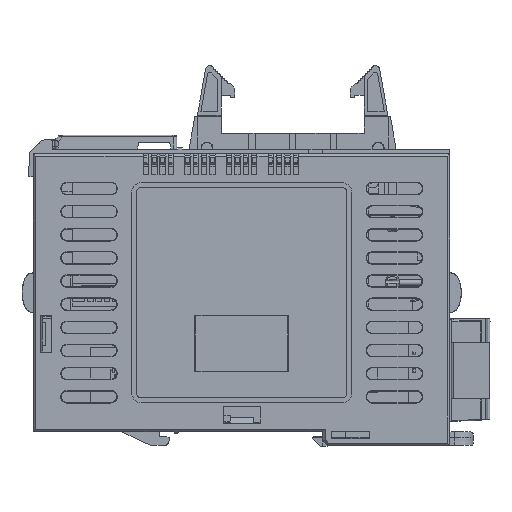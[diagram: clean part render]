
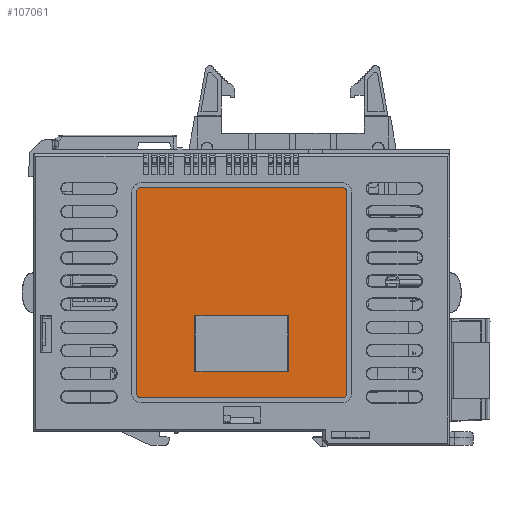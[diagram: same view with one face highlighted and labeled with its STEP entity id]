
A CAD part, left-side view. The second image highlights one B-rep face of the part: STEP entity #107061.
In plain terms, the highlighted planar face has unit normal (-1, 0, 0).
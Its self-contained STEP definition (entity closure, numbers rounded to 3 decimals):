
#2877 = CARTESIAN_POINT ( 'NONE',  ( -14.447, 21.427, 10.45 ) ) ;
#10142 = AXIS2_PLACEMENT_3D ( 'NONE', #220502, #161157, #47295 ) ;
#12212 = LINE ( 'NONE', #102442, #42862 ) ;
#14720 = CARTESIAN_POINT ( 'NONE',  ( -14.447, -11.423, 16.1 ) ) ;
#16012 = EDGE_LOOP ( 'NONE', ( #69856, #181672, #110031, #75153 ) ) ;
#17765 = AXIS2_PLACEMENT_3D ( 'NONE', #290230, #87526, #40233 ) ;
#17963 = ORIENTED_EDGE ( 'NONE', *, *, #114515, .T. ) ;
#20245 = VERTEX_POINT ( 'NONE', #54568 ) ;
#26113 = CARTESIAN_POINT ( 'NONE',  ( -14.447, -11.423, 16.1 ) ) ;
#26792 = DIRECTION ( 'NONE',  ( 0., 0., -1. ) ) ;
#26837 = VERTEX_POINT ( 'NONE', #164403 ) ;
#27988 = DIRECTION ( 'NONE',  ( 0., -1., 0. ) ) ;
#28311 = CARTESIAN_POINT ( 'NONE',  ( -14.447, -23.073, 10.45 ) ) ;
#31171 = VERTEX_POINT ( 'NONE', #88482 ) ;
#35231 = AXIS2_PLACEMENT_3D ( 'NONE', #108298, #243007, #111241 ) ;
#40233 = DIRECTION ( 'NONE',  ( 0., 1., 0. ) ) ;
#42402 = DIRECTION ( 'NONE',  ( 0., 0., 1. ) ) ;
#42862 = VECTOR ( 'NONE', #192688, 1000. ) ;
#44814 = CARTESIAN_POINT ( 'NONE',  ( -14.447, -11.423, 28.3 ) ) ;
#47295 = DIRECTION ( 'NONE',  ( 0., 0., -1. ) ) ;
#47440 = VERTEX_POINT ( 'NONE', #189697 ) ;
#50430 = CARTESIAN_POINT ( 'NONE',  ( -14.447, 21.427, 10.45 ) ) ;
#54568 = CARTESIAN_POINT ( 'NONE',  ( -14.447, 8.777, 16.1 ) ) ;
#58655 = EDGE_CURVE ( 'NONE', #31171, #47440, #143762, .T. ) ;
#59034 = ORIENTED_EDGE ( 'NONE', *, *, #276621, .T. ) ;
#59855 = VERTEX_POINT ( 'NONE', #224137 ) ;
#68436 = VECTOR ( 'NONE', #27988, 1000. ) ;
#69856 = ORIENTED_EDGE ( 'NONE', *, *, #164331, .F. ) ;
#73030 = CIRCLE ( 'NONE', #214779, 1. ) ;
#73611 = EDGE_CURVE ( 'NONE', #259397, #123393, #12212, .T. ) ;
#75153 = ORIENTED_EDGE ( 'NONE', *, *, #252585, .F. ) ;
#75732 = EDGE_LOOP ( 'NONE', ( #284649, #17963, #168042, #192139, #157926, #59034, #184029, #174642 ) ) ;
#79972 = VERTEX_POINT ( 'NONE', #118158 ) ;
#87526 = DIRECTION ( 'NONE',  ( 1., 0., 0. ) ) ;
#88482 = CARTESIAN_POINT ( 'NONE',  ( -14.447, 21.427, 11.45 ) ) ;
#89003 = VECTOR ( 'NONE', #26792, 1000. ) ;
#94795 = EDGE_CURVE ( 'NONE', #79972, #59855, #106054, .T. ) ;
#97983 = VECTOR ( 'NONE', #42402, 1000. ) ;
#102442 = CARTESIAN_POINT ( 'NONE',  ( -14.447, 21.427, 55.95 ) ) ;
#106054 = LINE ( 'NONE', #245115, #97983 ) ;
#107061 = ADVANCED_FACE ( 'NONE', ( #199950, #242945 ), #265114, .F. ) ;
#107913 = VECTOR ( 'NONE', #167194, 1000. ) ;
#108298 = CARTESIAN_POINT ( 'NONE',  ( -14.447, 20.427, 11.45 ) ) ;
#109567 = CARTESIAN_POINT ( 'NONE',  ( -14.447, 20.427, 55.95 ) ) ;
#110031 = ORIENTED_EDGE ( 'NONE', *, *, #246462, .F. ) ;
#111241 = DIRECTION ( 'NONE',  ( 0., 0., -1. ) ) ;
#111487 = DIRECTION ( 'NONE',  ( 0., 0., -1. ) ) ;
#112626 = LINE ( 'NONE', #50430, #89003 ) ;
#114515 = EDGE_CURVE ( 'NONE', #197595, #79972, #73030, .T. ) ;
#118158 = CARTESIAN_POINT ( 'NONE',  ( -14.447, -24.073, 11.45 ) ) ;
#120987 = VECTOR ( 'NONE', #136486, 1000. ) ;
#121327 = EDGE_CURVE ( 'NONE', #172085, #31171, #112626, .T. ) ;
#123393 = VERTEX_POINT ( 'NONE', #109567 ) ;
#131596 = EDGE_CURVE ( 'NONE', #26837, #291176, #180864, .T. ) ;
#136486 = DIRECTION ( 'NONE',  ( 0., 1., 0. ) ) ;
#137677 = CIRCLE ( 'NONE', #10142, 1. ) ;
#138972 = DIRECTION ( 'NONE',  ( -1., 0., 0. ) ) ;
#141209 = VECTOR ( 'NONE', #147929, 1000. ) ;
#143659 = CARTESIAN_POINT ( 'NONE',  ( -14.447, -23.073, 11.45 ) ) ;
#143762 = CIRCLE ( 'NONE', #35231, 1. ) ;
#144739 = CARTESIAN_POINT ( 'NONE',  ( -14.447, 21.427, 54.95 ) ) ;
#147929 = DIRECTION ( 'NONE',  ( 0., 0., 1. ) ) ;
#157926 = ORIENTED_EDGE ( 'NONE', *, *, #73611, .T. ) ;
#161157 = DIRECTION ( 'NONE',  ( -1., 0., 0. ) ) ;
#164264 = LINE ( 'NONE', #254563, #107913 ) ;
#164331 = EDGE_CURVE ( 'NONE', #291176, #20245, #271266, .T. ) ;
#164403 = CARTESIAN_POINT ( 'NONE',  ( -14.447, -11.423, 28.3 ) ) ;
#167194 = DIRECTION ( 'NONE',  ( 0., -1., 0. ) ) ;
#168042 = ORIENTED_EDGE ( 'NONE', *, *, #94795, .T. ) ;
#168148 = AXIS2_PLACEMENT_3D ( 'NONE', #247065, #138972, #201154 ) ;
#172085 = VERTEX_POINT ( 'NONE', #144739 ) ;
#174443 = LINE ( 'NONE', #14720, #141209 ) ;
#174642 = ORIENTED_EDGE ( 'NONE', *, *, #58655, .T. ) ;
#180864 = LINE ( 'NONE', #44814, #120987 ) ;
#181672 = ORIENTED_EDGE ( 'NONE', *, *, #131596, .F. ) ;
#184029 = ORIENTED_EDGE ( 'NONE', *, *, #121327, .T. ) ;
#187144 = CARTESIAN_POINT ( 'NONE',  ( -14.447, -23.073, 55.95 ) ) ;
#189165 = LINE ( 'NONE', #2877, #68436 ) ;
#189697 = CARTESIAN_POINT ( 'NONE',  ( -14.447, 20.427, 10.45 ) ) ;
#192139 = ORIENTED_EDGE ( 'NONE', *, *, #256421, .T. ) ;
#192688 = DIRECTION ( 'NONE',  ( 0., 1., 0. ) ) ;
#197595 = VERTEX_POINT ( 'NONE', #28311 ) ;
#199950 = FACE_OUTER_BOUND ( 'NONE', #75732, .T. ) ;
#201154 = DIRECTION ( 'NONE',  ( 0., 0., -1. ) ) ;
#208729 = DIRECTION ( 'NONE',  ( -1., 0., 0. ) ) ;
#210771 = CIRCLE ( 'NONE', #168148, 1. ) ;
#214779 = AXIS2_PLACEMENT_3D ( 'NONE', #143659, #208729, #257609 ) ;
#220502 = CARTESIAN_POINT ( 'NONE',  ( -14.447, -23.073, 54.95 ) ) ;
#222935 = CARTESIAN_POINT ( 'NONE',  ( -14.447, 8.777, 28.3 ) ) ;
#224104 = VECTOR ( 'NONE', #111487, 1000. ) ;
#224137 = CARTESIAN_POINT ( 'NONE',  ( -14.447, -24.073, 54.95 ) ) ;
#237572 = VERTEX_POINT ( 'NONE', #26113 ) ;
#242945 = FACE_BOUND ( 'NONE', #16012, .T. ) ;
#243007 = DIRECTION ( 'NONE',  ( -1., 0., 0. ) ) ;
#245115 = CARTESIAN_POINT ( 'NONE',  ( -14.447, -24.073, 10.45 ) ) ;
#246462 = EDGE_CURVE ( 'NONE', #237572, #26837, #174443, .T. ) ;
#247065 = CARTESIAN_POINT ( 'NONE',  ( -14.447, 20.427, 54.95 ) ) ;
#247640 = CARTESIAN_POINT ( 'NONE',  ( -14.447, 8.777, 28.3 ) ) ;
#252585 = EDGE_CURVE ( 'NONE', #20245, #237572, #164264, .T. ) ;
#254563 = CARTESIAN_POINT ( 'NONE',  ( -14.447, 8.777, 16.1 ) ) ;
#256421 = EDGE_CURVE ( 'NONE', #59855, #259397, #137677, .T. ) ;
#257609 = DIRECTION ( 'NONE',  ( 0., 0., -1. ) ) ;
#259397 = VERTEX_POINT ( 'NONE', #187144 ) ;
#263429 = EDGE_CURVE ( 'NONE', #47440, #197595, #189165, .T. ) ;
#265114 = PLANE ( 'NONE',  #17765 ) ;
#271266 = LINE ( 'NONE', #247640, #224104 ) ;
#276621 = EDGE_CURVE ( 'NONE', #123393, #172085, #210771, .T. ) ;
#284649 = ORIENTED_EDGE ( 'NONE', *, *, #263429, .T. ) ;
#290230 = CARTESIAN_POINT ( 'NONE',  ( -14.447, -1.323, 33.2 ) ) ;
#291176 = VERTEX_POINT ( 'NONE', #222935 ) ;
